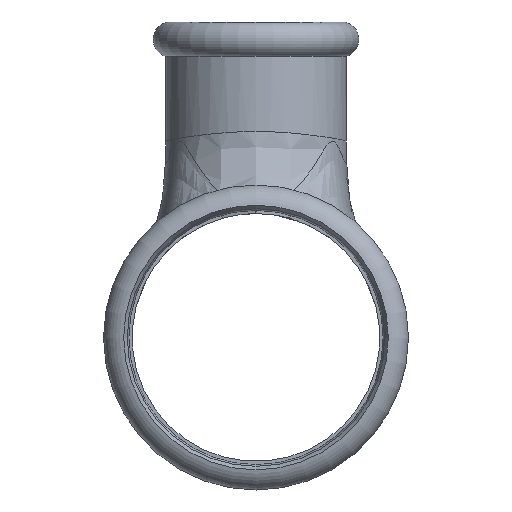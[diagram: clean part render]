
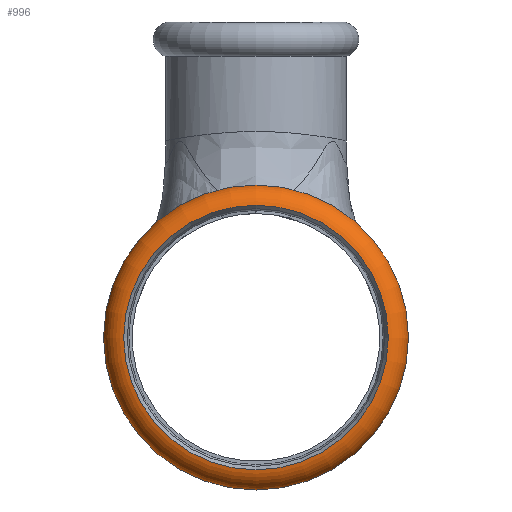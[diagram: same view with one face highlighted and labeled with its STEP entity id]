
A CAD part, left-side view. The second image highlights one B-rep face of the part: STEP entity #996.
In plain terms, the highlighted toroidal (fillet/blend) face has major radius 27.434 mm and minor radius 4.958 mm.
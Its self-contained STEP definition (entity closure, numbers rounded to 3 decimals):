
#183=FACE_OUTER_BOUND('',#238,.T.);
#238=EDGE_LOOP('',(#672,#673,#674,#675,#676,#677,#678,#679));
#308=CIRCLE('',#1089,28.75);
#309=CIRCLE('',#1090,28.75);
#310=CIRCLE('',#1091,4.958);
#311=CIRCLE('',#1092,28.1);
#312=CIRCLE('',#1093,28.1);
#313=CIRCLE('',#1094,28.1);
#314=CIRCLE('',#1095,28.75);
#377=VERTEX_POINT('',#1421);
#378=VERTEX_POINT('',#1422);
#379=VERTEX_POINT('',#1424);
#380=VERTEX_POINT('',#1426);
#381=VERTEX_POINT('',#1428);
#382=VERTEX_POINT('',#1430);
#495=EDGE_CURVE('',#377,#378,#308,.T.);
#496=EDGE_CURVE('',#379,#377,#309,.T.);
#497=EDGE_CURVE('',#379,#380,#310,.T.);
#498=EDGE_CURVE('',#380,#381,#311,.T.);
#499=EDGE_CURVE('',#381,#382,#312,.T.);
#500=EDGE_CURVE('',#382,#380,#313,.T.);
#501=EDGE_CURVE('',#378,#379,#314,.T.);
#672=ORIENTED_EDGE('',*,*,#495,.F.);
#673=ORIENTED_EDGE('',*,*,#496,.F.);
#674=ORIENTED_EDGE('',*,*,#497,.T.);
#675=ORIENTED_EDGE('',*,*,#498,.T.);
#676=ORIENTED_EDGE('',*,*,#499,.T.);
#677=ORIENTED_EDGE('',*,*,#500,.T.);
#678=ORIENTED_EDGE('',*,*,#497,.F.);
#679=ORIENTED_EDGE('',*,*,#501,.F.);
#985=TOROIDAL_SURFACE('',#1088,27.434,4.958);
#996=ADVANCED_FACE('',(#183),#985,.T.);
#1088=AXIS2_PLACEMENT_3D('',#1420,#1211,#1212);
#1089=AXIS2_PLACEMENT_3D('',#1423,#1213,#1214);
#1090=AXIS2_PLACEMENT_3D('',#1425,#1215,#1216);
#1091=AXIS2_PLACEMENT_3D('',#1427,#1217,#1218);
#1092=AXIS2_PLACEMENT_3D('',#1429,#1219,#1220);
#1093=AXIS2_PLACEMENT_3D('',#1431,#1221,#1222);
#1094=AXIS2_PLACEMENT_3D('',#1432,#1223,#1224);
#1095=AXIS2_PLACEMENT_3D('',#1433,#1225,#1226);
#1211=DIRECTION('center_axis',(1.,0.,0.));
#1212=DIRECTION('ref_axis',(0.,0.,1.));
#1213=DIRECTION('center_axis',(1.,0.,0.));
#1214=DIRECTION('ref_axis',(0.,1.,0.));
#1215=DIRECTION('center_axis',(1.,0.,0.));
#1216=DIRECTION('ref_axis',(0.,1.,0.));
#1217=DIRECTION('center_axis',(0.,1.,0.));
#1218=DIRECTION('ref_axis',(0.,0.,-1.));
#1219=DIRECTION('center_axis',(1.,0.,0.));
#1220=DIRECTION('ref_axis',(0.,1.,0.));
#1221=DIRECTION('center_axis',(1.,0.,0.));
#1222=DIRECTION('ref_axis',(0.,1.,0.));
#1223=DIRECTION('center_axis',(1.,0.,0.));
#1224=DIRECTION('ref_axis',(0.,1.,0.));
#1225=DIRECTION('center_axis',(1.,0.,0.));
#1226=DIRECTION('ref_axis',(0.,1.,0.));
#1420=CARTESIAN_POINT('Origin',(-64.087,0.,0.));
#1421=CARTESIAN_POINT('',(-59.307,28.75,0.));
#1422=CARTESIAN_POINT('',(-59.307,-28.75,0.));
#1423=CARTESIAN_POINT('Origin',(-59.307,0.,0.));
#1424=CARTESIAN_POINT('',(-59.307,0.,-28.75));
#1425=CARTESIAN_POINT('Origin',(-59.307,0.,0.));
#1426=CARTESIAN_POINT('',(-69.,0.,-28.1));
#1427=CARTESIAN_POINT('Origin',(-64.087,0.,
-27.434));
#1428=CARTESIAN_POINT('',(-69.,28.1,0.));
#1429=CARTESIAN_POINT('Origin',(-69.,0.,0.));
#1430=CARTESIAN_POINT('',(-69.,-28.1,0.));
#1431=CARTESIAN_POINT('Origin',(-69.,0.,0.));
#1432=CARTESIAN_POINT('Origin',(-69.,0.,0.));
#1433=CARTESIAN_POINT('Origin',(-59.307,0.,0.));
